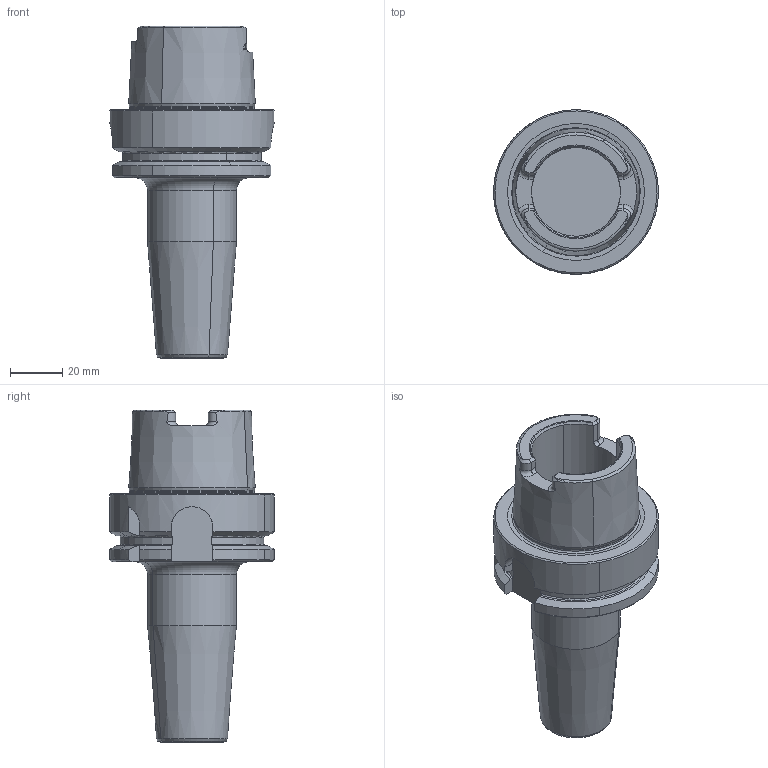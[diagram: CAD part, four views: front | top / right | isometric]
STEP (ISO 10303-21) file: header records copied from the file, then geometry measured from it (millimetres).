
FILE_DESCRIPTION(('CATIA V5 STEP','CAx-IF Rec.Pracs.--- Model Styling and Organization---1.2---2011-12-15'),'2;1');
FILE_NAME('\\nas01\drv1\utils\eitdev\rte\eit\transmagicconvert\db\out\4503904 L.stp','2014-03-31T09:22:05+00:00',('none'),('none'),'CATIA Version 5 Release 21 SP 5 (IN-10)','CATIA V5 STEP AP214','none');
FILE_SCHEMA(('AUTOMOTIVE_DESIGN { 1 0 10303 214 1 1 1 1 }'));
Length unit declared in the file: millimetre
Products named in the file (1): 61025892_0 Holder-Tool HSK A 63 SRKIN 16X95
Bounding box: 62.99 x 63 x 127 mm (x, y, z)
Volume: 142408.9 mm3; surface area: 28116.8 mm2
Topology: 1 solids, 1 shells, 136 faces, 349 edges, 218 vertices
Faces by surface type: plane 41, cone 35, cylinder 32, torus 28
Entity records: 4211 total; most frequent: CARTESIAN_POINT 1291, ORIENTED_EDGE 698, DIRECTION 432, EDGE_CURVE 349, AXIS2_PLACEMENT_3D 232, VERTEX_POINT 218, CIRCLE 151, EDGE_LOOP 139
